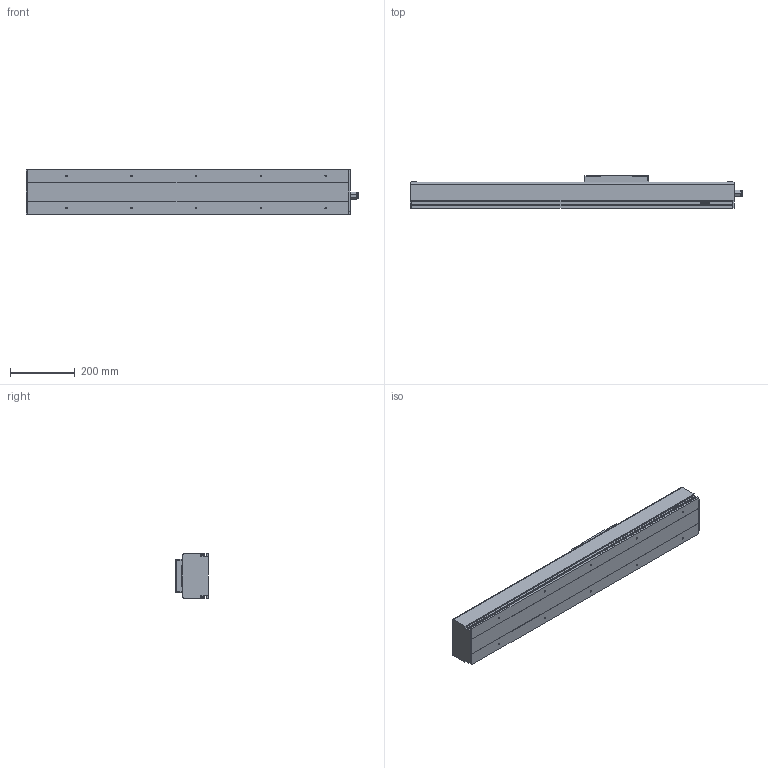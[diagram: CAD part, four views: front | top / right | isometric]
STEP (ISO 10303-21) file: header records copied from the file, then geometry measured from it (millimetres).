
FILE_DESCRIPTION(/* description */ (''),/* implementation_level */ '2;1');
FILE_NAME(/* name */ 'D:\混合母檔20191031\混和母檔\混和母檔\bin\Debug\Download\3D\KS140-10C-500AFI\KS140-10C-500AFI.stp',/* time_stamp */ '2019-11-04T15:32:42+08:00',/* author */ ('user'),/* organization */ (''),/* preprocessor_version */ 'ST-DEVELOPER v16.13',/* originating_system */ 'Autodesk Inventor 2018',/* authorisation */ '');
FILE_SCHEMA (('AUTOMOTIVE_DESIGN { 1 0 10303 214 3 1 1 }'));
Length unit declared in the file: millimetre
Products named in the file (3): KS140-10C-500AFI; KS140-FI-BP; KS140-SL
Assembly tree (2 placements, depth 2):
  KS140-10C-500AFI
    KS140-FI-BP
    KS140-SL
Bounding box: 1024.5 x 101 x 136 mm (x, y, z)
Volume: 3966970.9 mm3; surface area: 1024374.5 mm2
Topology: 4 solids, 8 shells, 679 faces, 1865 edges, 1225 vertices
Faces by surface type: plane 373, bspline 136, cylinder 78, cone 72, torus 16, sphere 4
Full cylindrical faces by diameter (mm): 3.571 x8, 4 x4, 4.134 x4, 4.3 x4, 4.917 x14, 6 x2, 8 x3, 8.4 x4, 12 x2, 13.1 x1, 15 x1, 18.75 x2, 46 x1, 50 x1
Entity records: 21977 total; most frequent: CARTESIAN_POINT 5905, ORIENTED_EDGE 3452, DIRECTION 2803, EDGE_CURVE 1725, VERTEX_POINT 1180, LINE 1143, VECTOR 1143, AXIS2_PLACEMENT_3D 830
